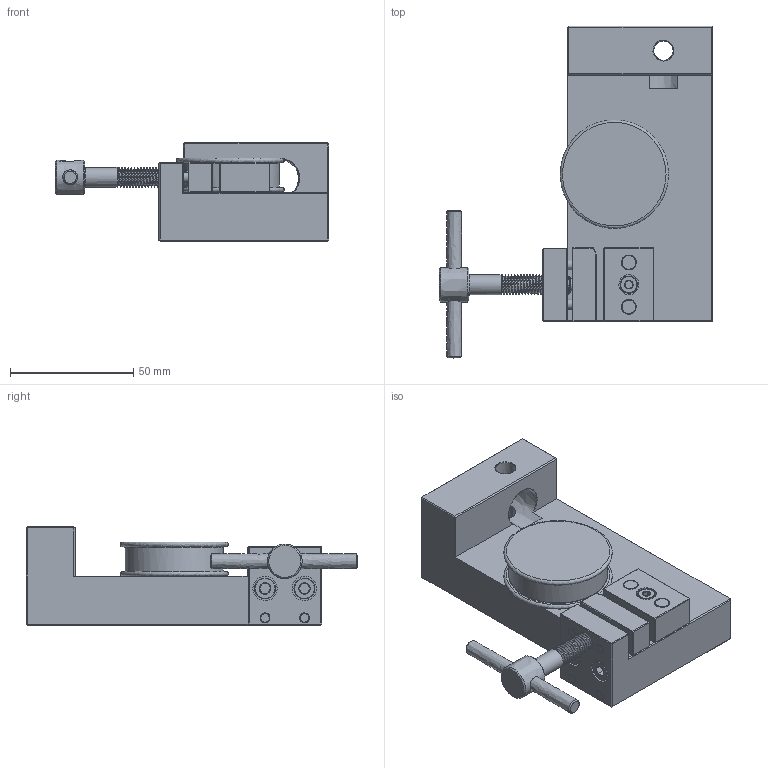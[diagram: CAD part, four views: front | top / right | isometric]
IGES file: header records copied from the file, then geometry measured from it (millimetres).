
Global section: file name: G1102 MODEL; native system: AutoCAD 2017 - English; preprocessor: Autodesk Translation Framework DWG producer (atf_dwg_producer); organization: unknown; date: 20171128.172300; units: inch
Bounding box: 111.02 x 134.76 x 40 mm (x, y, z)
Volume: 202083.6 mm3; surface area: 39766.2 mm2
Topology: 3 solids, 3 shells, 224 faces, 712 edges, 516 vertices
Faces by surface type: bspline 224
